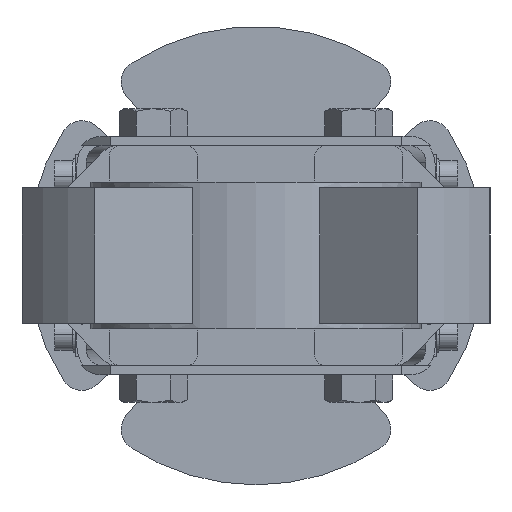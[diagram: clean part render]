
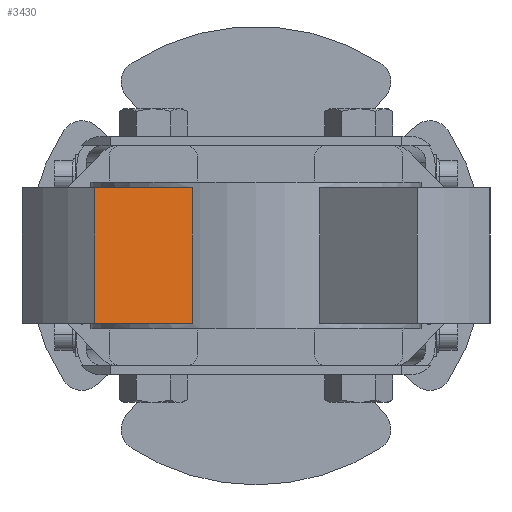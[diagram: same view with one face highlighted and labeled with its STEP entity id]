
A CAD part, front view. The second image highlights one B-rep face of the part: STEP entity #3430.
In plain terms, the highlighted planar face has unit normal (0.643, -0.766, 0).
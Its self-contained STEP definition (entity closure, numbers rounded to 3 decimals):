
#199 = VERTEX_POINT ( 'NONE', #9432 ) ;
#3381 = EDGE_CURVE ( 'NONE', #3452, #199, #15966, .T. ) ;
#3430 = ADVANCED_FACE ( 'NONE', ( #16063 ), #16061, .F. ) ;
#3431 = EDGE_LOOP ( 'NONE', ( #3491, #3492, #3494, #3495 ) ) ;
#3439 = VERTEX_POINT ( 'NONE', #16044 ) ;
#3441 = EDGE_CURVE ( 'NONE', #3439, #3442, #16043, .T. ) ;
#3442 = VERTEX_POINT ( 'NONE', #16039 ) ;
#3452 = VERTEX_POINT ( 'NONE', #16090 ) ;
#3491 = ORIENTED_EDGE ( 'NONE', *, *, #3381, .T. ) ;
#3492 = ORIENTED_EDGE ( 'NONE', *, *, #3493, .F. ) ;
#3493 = EDGE_CURVE ( 'NONE', #3442, #199, #16160, .T. ) ;
#3494 = ORIENTED_EDGE ( 'NONE', *, *, #3441, .F. ) ;
#3495 = ORIENTED_EDGE ( 'NONE', *, *, #3496, .T. ) ;
#3496 = EDGE_CURVE ( 'NONE', #3439, #3452, #16156, .T. ) ;
#9432 = CARTESIAN_POINT ( 'NONE',  ( -17.417, -41.493, -18.5 ) ) ;
#15960 = DIRECTION ( 'NONE',  ( 0.766, 0.643, 0. ) ) ;
#15961 = VECTOR ( 'NONE', #15960, 1000. ) ;
#15962 = CARTESIAN_POINT ( 'NONE',  ( -17.417, -41.493, -18.5 ) ) ;
#15966 = LINE ( 'NONE', #15962, #15961 ) ;
#16039 = CARTESIAN_POINT ( 'NONE',  ( -17.417, -41.493, 18.5 ) ) ;
#16040 = DIRECTION ( 'NONE',  ( 0.766, 0.643, 0. ) ) ;
#16041 = VECTOR ( 'NONE', #16040, 1000. ) ;
#16042 = CARTESIAN_POINT ( 'NONE',  ( -17.417, -41.493, 18.5 ) ) ;
#16043 = LINE ( 'NONE', #16042, #16041 ) ;
#16044 = CARTESIAN_POINT ( 'NONE',  ( -44., -63.799, 18.5 ) ) ;
#16057 = DIRECTION ( 'NONE',  ( -0.766, -0.643, 0. ) ) ;
#16058 = DIRECTION ( 'NONE',  ( -0.643, 0.766, 0. ) ) ;
#16059 = CARTESIAN_POINT ( 'NONE',  ( -17.417, -41.493, 18.5 ) ) ;
#16060 = AXIS2_PLACEMENT_3D ( 'NONE', #16059, #16058, #16057 ) ;
#16061 = PLANE ( 'NONE',  #16060 ) ;
#16063 = FACE_OUTER_BOUND ( 'NONE', #3431, .T. ) ;
#16090 = CARTESIAN_POINT ( 'NONE',  ( -44., -63.799, -18.5 ) ) ;
#16153 = DIRECTION ( 'NONE',  ( 0., 0., -1. ) ) ;
#16154 = VECTOR ( 'NONE', #16153, 1000. ) ;
#16155 = CARTESIAN_POINT ( 'NONE',  ( -44., -63.799, 18.5 ) ) ;
#16156 = LINE ( 'NONE', #16155, #16154 ) ;
#16157 = DIRECTION ( 'NONE',  ( 0., 0., -1. ) ) ;
#16158 = VECTOR ( 'NONE', #16157, 1000. ) ;
#16159 = CARTESIAN_POINT ( 'NONE',  ( -17.417, -41.493, 18.5 ) ) ;
#16160 = LINE ( 'NONE', #16159, #16158 ) ;
